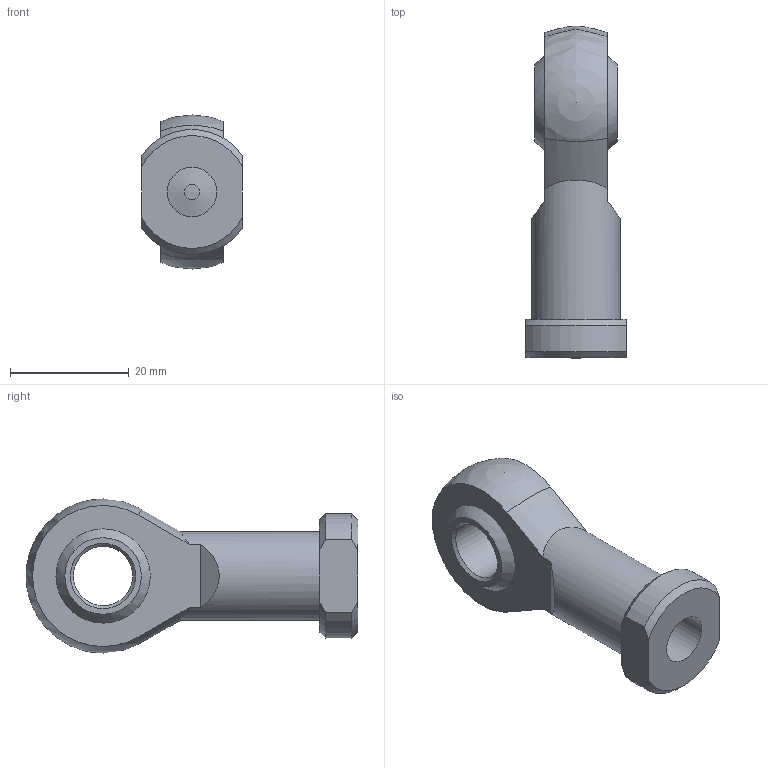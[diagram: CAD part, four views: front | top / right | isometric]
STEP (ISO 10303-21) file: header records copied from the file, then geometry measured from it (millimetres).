
FILE_DESCRIPTION(/* description */ ('Unknown'),/* implementation_level */ '2;1');
FILE_NAME(/* name */ 'WK25_WK30_J',/* time_stamp */ '2026-07-17T16:39:57+08:00',/* author */ ('Unknown'),/* organization */ ('Unknown'),/* preprocessor_version */ 'ST-DEVELOPER v16.7',/* originating_system */ 'DEX',/* authorisation */ $);
FILE_SCHEMA (('CONFIG_CONTROL_DESIGN'));
Length unit declared in the file: millimetre
Products named in the file (1): WK25_WK30_J
Bounding box: 17 x 56 x 26 mm (x, y, z)
Volume: 9765.5 mm3; surface area: 4614 mm2
Topology: 1 solids, 1 shells, 29 faces, 66 edges, 44 vertices
Faces by surface type: plane 10, cylinder 8, cone 7, sphere 4
Full cylindrical faces by diameter (mm): 2.625 x1, 8.376 x1, 10 x1, 15 x1
Entity records: 794 total; most frequent: CARTESIAN_POINT 154, DIRECTION 132, ORIENTED_EDGE 110, AXIS2_PLACEMENT_3D 57, EDGE_CURVE 55, EDGE_LOOP 44, FACE_BOUND 44, VERTEX_POINT 41
